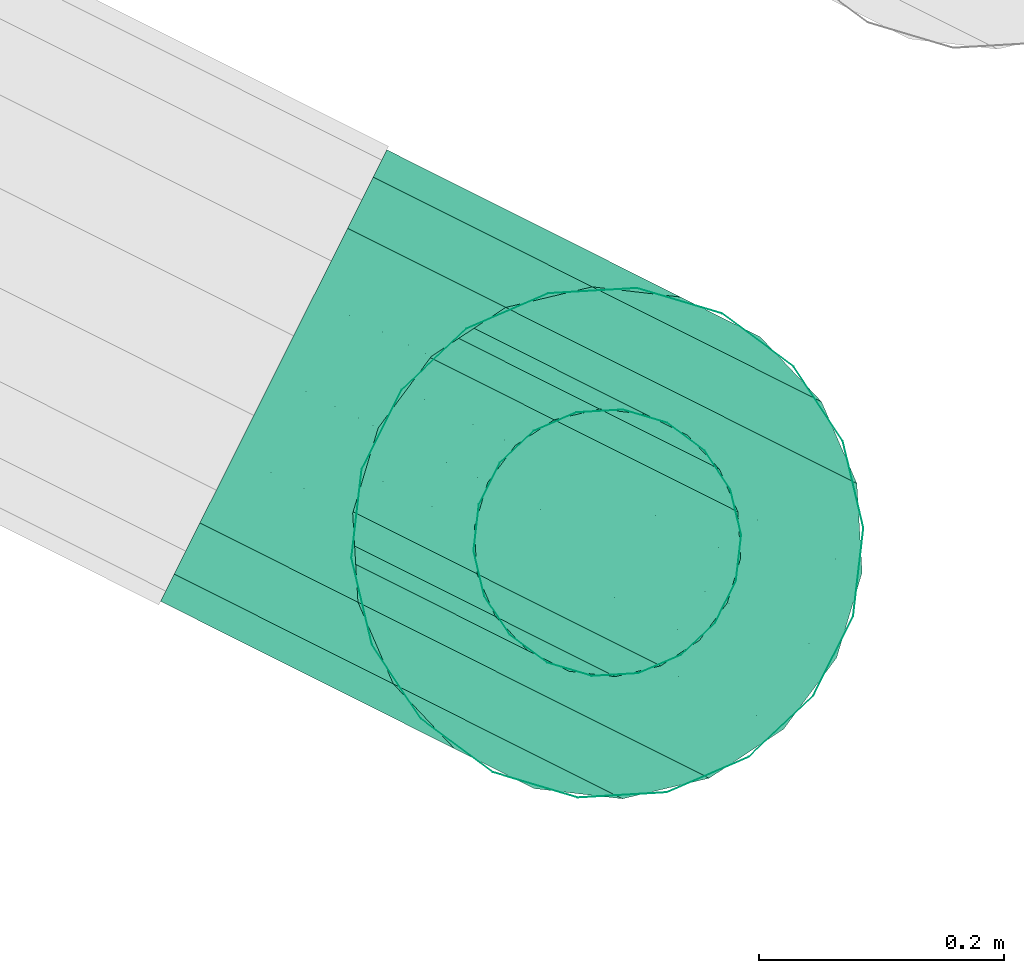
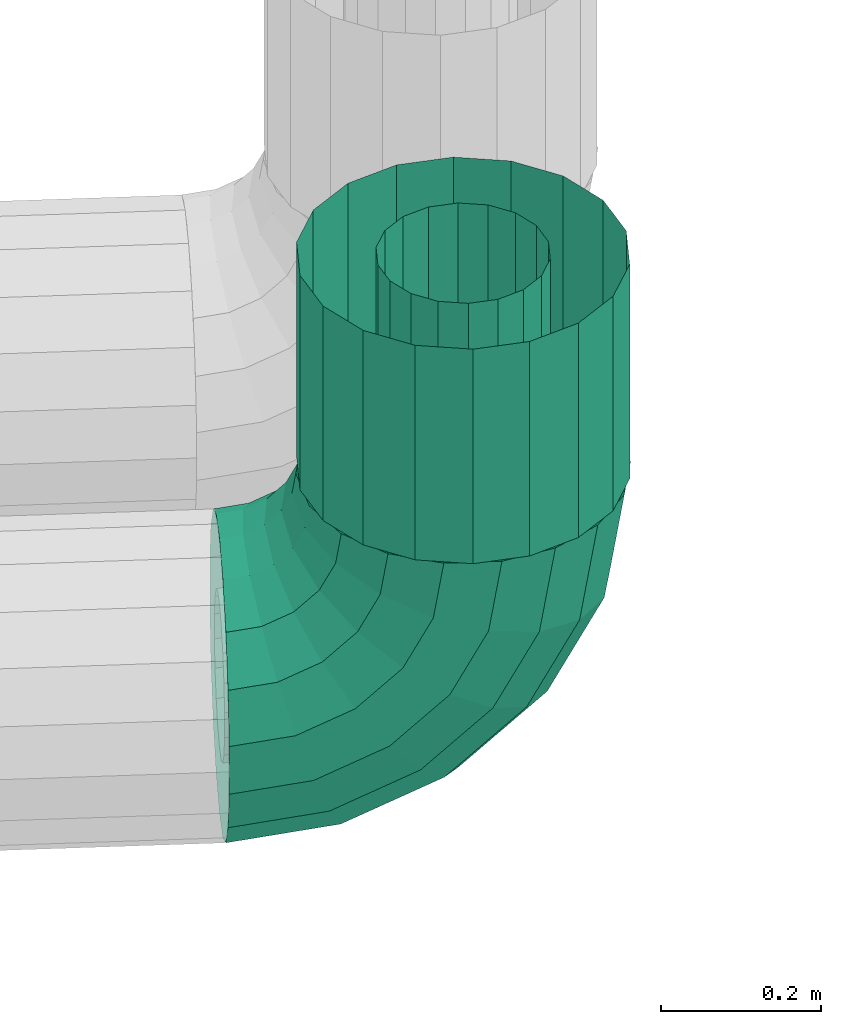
# One storey, part 168 of 206: 2 flow segments.
"""IFC2X3 building model written with IfcOpenShell, lengths in metres."""

from ifc_helpers import new_model, si_unit, derived_unit, direction, frame, origin, place, context, subcontext, project, spatial, face_set, surface_model, source, transform, mapped, material, type_object, type_shapes, element, save


model = new_model("IFC2X3")

# Units and contexts
model_context = context("Model", 3, precision=5.2338327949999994e-05, world=origin(), true_north=direction((0.0, 1.0)))
body_context = subcontext(model_context, "Body", "Model", "MODEL_VIEW")
ifc_project = project(units=[si_unit("LENGTHUNIT", "METRE"), si_unit("AREAUNIT", "SQUARE_METRE"), si_unit("VOLUMEUNIT", "CUBIC_METRE"), si_unit("MASSUNIT", "GRAM", prefix="KILO"), si_unit("PLANEANGLEUNIT", "RADIAN"), derived_unit("THERMALTRANSMITTANCEUNIT", [(si_unit("MASSUNIT", "GRAM", prefix="KILO"), 1), (si_unit("THERMODYNAMICTEMPERATUREUNIT", "KELVIN"), -1), (si_unit("TIMEUNIT", "SECOND"), -3)])], contexts=[model_context])

# Site, building, storey
site_placement = place(None, frame((0.0, 0.0, 0.0), z_axis=(0.0, 0.0, 1.0), x_axis=(0.8939966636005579, -0.4480736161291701, 0.0)))
site = spatial("IfcSite", under=ifc_project, at=site_placement, Name="Default", CompositionType="ELEMENT")
building_placement = place(site_placement, origin())
building = spatial("IfcBuilding", under=site, at=building_placement, CompositionType="ELEMENT")
storey_placement = place(building_placement, origin())
storey = spatial("IfcBuildingStorey", under=building, at=storey_placement, Name="Erdgeschoss", CompositionType="ELEMENT", Elevation=0.0)

# Flow segments
ifc_material = material(Name="IfcSurfaceStyle #9317")
distribution_element_type_1 = type_object("IfcDistributionElementType", Name="Rohrbogen 304005:Rohrbogen 304005", material=ifc_material)
shared_shape_1 = source(origin(), body_context, "Body", "SurfaceModel", [
    surface_model("IfcFaceBasedSurfaceModel", [(6.282814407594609, 7.327208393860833, 2.208248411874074), (6.28281440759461, 7.3646767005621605, 2.2148550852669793), (6.408875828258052, 7.3646767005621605, 2.2348212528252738), (6.410917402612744, 7.327208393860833, 2.228537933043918), (6.52259747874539, 7.3646767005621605, 2.292765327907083), (6.5264807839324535, 7.327208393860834, 2.287420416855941), (6.612847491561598, 7.364676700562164, 2.3830153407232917), (6.618192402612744, 7.327208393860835, 2.3791320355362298), (6.670791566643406, 7.364676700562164, 2.4967369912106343), (6.6770748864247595, 7.327208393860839, 2.494695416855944), (6.690757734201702, 7.364676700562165, 2.622798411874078), (6.6973644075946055, 7.327208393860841, 2.6227984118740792), (6.28281440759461, 7.397625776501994, 2.233878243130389), (6.40299734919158, 7.397625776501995, 2.2529133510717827), (6.511415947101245, 7.397625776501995, 2.3081553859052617), (6.597457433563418, 7.397625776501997, 2.3941968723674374), (6.652699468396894, 7.397625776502, 2.5026154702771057), (6.671734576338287, 7.397625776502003, 2.6227984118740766), (6.28281440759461, 7.422081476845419, 2.263023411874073), (6.393990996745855, 7.42208147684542, 2.2806320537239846), (6.4942848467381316, 7.42208147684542, 2.331734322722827), (6.573878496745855, 7.422081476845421, 2.4113279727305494), (6.624980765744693, 7.422081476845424, 2.5116218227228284), (6.642589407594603, 7.422081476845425, 2.6227984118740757), (6.282814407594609, 7.435094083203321, 2.2987752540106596), (6.382943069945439, 7.435094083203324, 2.314634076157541), (6.473270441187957, 7.435094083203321, 2.3606581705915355), (6.544954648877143, 7.435094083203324, 2.432342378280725), (6.590978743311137, 7.435094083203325, 2.5226697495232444), (6.606837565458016, 7.435094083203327, 2.6227984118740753), (6.282814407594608, 7.435094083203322, 2.3368215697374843), (6.371186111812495, 7.435094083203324, 2.3508182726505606), (6.450907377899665, 7.435094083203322, 2.391438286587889), (6.514174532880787, 7.4350940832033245, 2.4547054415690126), (6.554794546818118, 7.435094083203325, 2.5344267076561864), (6.568791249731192, 7.435094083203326, 2.6227984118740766), (6.282814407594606, 7.42208147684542, 2.3725734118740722), (6.360138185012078, 7.42208147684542, 2.3848202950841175), (6.42989297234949, 7.422081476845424, 2.4203621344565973), (6.485250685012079, 7.422081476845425, 2.475719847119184), (6.520792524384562, 7.422081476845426, 2.545474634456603), (6.533039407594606, 7.422081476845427, 2.6227984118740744), (6.282814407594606, 7.3976257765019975, 2.401718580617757), (6.351131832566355, 7.397625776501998, 2.4125389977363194), (6.412761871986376, 7.397625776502, 2.4439410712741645), (6.461671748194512, 7.397625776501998, 2.4928509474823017), (6.493073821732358, 7.397625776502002, 2.554480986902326), (6.503894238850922, 7.397625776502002, 2.622798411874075), (6.282814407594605, 7.364676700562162, 2.4207417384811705), (6.345253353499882, 7.364676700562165, 2.4306310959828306), (6.401580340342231, 7.364676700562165, 2.459331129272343), (6.446281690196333, 7.364676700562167, 2.5040324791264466), (6.474981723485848, 7.364676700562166, 2.560359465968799), (6.48487108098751, 7.364676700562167, 2.622798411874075), (6.282814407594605, 7.327208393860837, 2.4273484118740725), (6.343211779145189, 7.327208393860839, 2.4369144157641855), (6.39769703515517, 7.327208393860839, 2.4646760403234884), (6.44093677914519, 7.327208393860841, 2.5079157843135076), (6.468698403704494, 7.327208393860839, 2.562401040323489), (6.4782644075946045, 7.32720839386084, 2.6227984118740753), (6.282814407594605, 7.289740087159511, 2.4207417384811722), (6.345253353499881, 7.289740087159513, 2.4306310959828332), (6.401580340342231, 7.289740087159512, 2.4593311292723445), (6.446281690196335, 7.289740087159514, 2.5040324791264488), (6.474981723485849, 7.289740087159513, 2.5603594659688), (6.484871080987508, 7.289740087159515, 2.6227984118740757), (6.282814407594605, 7.2567910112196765, 2.401718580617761), (6.351131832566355, 7.256791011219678, 2.412538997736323), (6.412761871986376, 7.256791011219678, 2.4439410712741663), (6.461671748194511, 7.256791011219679, 2.4928509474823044), (6.493073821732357, 7.256791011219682, 2.554480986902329), (6.503894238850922, 7.25679101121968, 2.6227984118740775), (6.282814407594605, 7.232335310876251, 2.372573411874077), (6.360138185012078, 7.23233531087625, 2.384820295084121), (6.4298929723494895, 7.232335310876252, 2.4203621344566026), (6.485250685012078, 7.232335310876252, 2.47571984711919), (6.520792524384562, 7.232335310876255, 2.545474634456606), (6.533039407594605, 7.232335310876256, 2.622798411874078), (6.282814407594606, 7.219322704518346, 2.33682156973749), (6.371186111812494, 7.2193227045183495, 2.3508182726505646), (6.450907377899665, 7.21932270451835, 2.391438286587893), (6.514174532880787, 7.219322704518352, 2.454705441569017), (6.554794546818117, 7.219322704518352, 2.534426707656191), (6.568791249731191, 7.219322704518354, 2.6227984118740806), (6.282814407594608, 7.219322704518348, 2.2987752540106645), (6.382943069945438, 7.219322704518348, 2.3146340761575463), (6.473270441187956, 7.219322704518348, 2.3606581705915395), (6.544954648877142, 7.21932270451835, 2.4323423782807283), (6.590978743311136, 7.21932270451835, 2.522669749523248), (6.606837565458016, 7.219322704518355, 2.62279841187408), (6.282814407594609, 7.232335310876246, 2.2630234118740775), (6.393990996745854, 7.232335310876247, 2.2806320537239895), (6.4942848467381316, 7.23233531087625, 2.3317343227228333), (6.573878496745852, 7.232335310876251, 2.4113279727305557), (6.624980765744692, 7.232335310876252, 2.5116218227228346), (6.642589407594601, 7.232335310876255, 2.6227984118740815), (6.282814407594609, 7.256791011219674, 2.233878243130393), (6.402997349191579, 7.256791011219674, 2.2529133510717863), (6.511415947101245, 7.256791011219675, 2.3081553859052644), (6.597457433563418, 7.256791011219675, 2.3941968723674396), (6.652699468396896, 7.256791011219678, 2.502615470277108), (6.6717345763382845, 7.25679101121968, 2.6227984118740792), (6.282814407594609, 7.289740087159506, 2.2148550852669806), (6.408875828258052, 7.289740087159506, 2.234821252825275), (6.522597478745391, 7.28974008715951, 2.292765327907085), (6.612847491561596, 7.289740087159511, 2.383015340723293), (6.670791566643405, 7.289740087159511, 2.496736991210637), (6.690757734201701, 7.289740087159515, 2.6227984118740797), (6.28281440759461, 7.327208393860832, 2.108248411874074), (6.28281440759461, 7.3988787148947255, 2.120885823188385), (6.437913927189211, 7.3988787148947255, 2.145451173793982), (6.44181910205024, 7.327208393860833, 2.1334322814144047), (6.577831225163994, 7.398878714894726, 2.21674259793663), (6.5852593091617, 7.327208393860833, 2.2065187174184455), (6.688870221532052, 7.398878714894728, 2.32778159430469), (6.699094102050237, 7.3272083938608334, 2.3203535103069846), (6.760161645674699, 7.398878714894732, 2.4676988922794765), (6.772180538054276, 7.327208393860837, 2.4637937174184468), (6.784726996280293, 7.398878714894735, 2.6227984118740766), (6.797364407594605, 7.327208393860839, 2.6227984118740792), (6.28281440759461, 7.461904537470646, 2.1572737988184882), (6.426669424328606, 7.461904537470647, 2.1800581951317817), (6.556442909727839, 7.461904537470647, 2.2461810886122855), (6.6594317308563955, 7.461904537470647, 2.3491699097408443), (6.725554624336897, 7.461904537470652, 2.4789433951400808), (6.748339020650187, 7.461904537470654, 2.6227984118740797), (6.28281440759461, 7.508684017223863, 2.213023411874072), (6.409441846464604, 7.508684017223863, 2.2330792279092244), (6.523674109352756, 7.5086840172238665, 2.291283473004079), (6.6143293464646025, 7.5086840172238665, 2.381938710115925), (6.6725335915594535, 7.508684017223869, 2.496170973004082), (6.692589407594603, 7.508684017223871, 2.6227984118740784), (6.28281440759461, 7.533574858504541, 2.281410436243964), (6.388309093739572, 7.533574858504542, 2.2981191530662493), (6.483477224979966, 7.533574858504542, 2.346609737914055), (6.559003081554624, 7.5335748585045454, 2.422135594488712), (6.607493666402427, 7.533574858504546, 2.5173037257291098), (6.624202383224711, 7.533574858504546, 2.6227984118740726), (6.282814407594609, 7.533574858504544, 2.354186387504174), (6.365820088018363, 7.533574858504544, 2.3673331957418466), (6.440700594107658, 7.533574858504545, 2.4054867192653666), (6.5001261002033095, 7.533574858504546, 2.4649122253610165), (6.538279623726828, 7.5335748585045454, 2.539792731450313), (6.551426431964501, 7.53357485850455, 2.622798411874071), (6.282814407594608, 7.5086840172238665, 2.4225734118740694), (6.344687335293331, 7.508684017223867, 2.432373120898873), (6.400503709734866, 7.508684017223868, 2.4608129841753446), (6.44479983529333, 7.508684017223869, 2.505109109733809), (6.4732396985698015, 7.508684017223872, 2.5609254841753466), (6.483039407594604, 7.508684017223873, 2.622798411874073), (6.282814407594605, 7.4619045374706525, 2.4783230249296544), (6.3274597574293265, 7.4619045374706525, 2.48539415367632), (6.367734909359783, 7.461904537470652, 2.5059153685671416), (6.3996974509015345, 7.461904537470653, 2.537877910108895), (6.420218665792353, 7.461904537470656, 2.578153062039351), (6.4272897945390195, 7.461904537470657, 2.6227984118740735), (6.282814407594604, 7.398878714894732, 2.5147110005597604), (6.316215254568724, 7.398878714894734, 2.5200011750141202), (6.346346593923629, 7.398878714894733, 2.535353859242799), (6.370258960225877, 7.398878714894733, 2.5592662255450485), (6.385611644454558, 7.398878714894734, 2.5893975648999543), (6.390901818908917, 7.398878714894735, 2.6227984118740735), (6.282814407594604, 7.327208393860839, 2.527348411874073), (6.312310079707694, 7.32720839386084, 2.5320200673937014), (6.338918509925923, 7.327208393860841, 2.545577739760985), (6.360035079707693, 7.32720839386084, 2.566694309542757), (6.373592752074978, 7.327208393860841, 2.5933027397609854), (6.378264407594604, 7.32720839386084, 2.6227984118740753), (6.282814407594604, 7.255538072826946, 2.514711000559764), (6.316215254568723, 7.255538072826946, 2.5200011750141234), (6.346346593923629, 7.255538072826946, 2.535353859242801), (6.370258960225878, 7.255538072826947, 2.5592662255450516), (6.385611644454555, 7.255538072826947, 2.5893975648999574), (6.390901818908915, 7.255538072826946, 2.6227984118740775), (6.282814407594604, 7.192512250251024, 2.47832302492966), (6.327459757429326, 7.192512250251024, 2.4853941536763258), (6.367734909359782, 7.192512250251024, 2.505915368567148), (6.399697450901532, 7.192512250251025, 2.5378779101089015), (6.420218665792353, 7.192512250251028, 2.5781530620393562), (6.4272897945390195, 7.192512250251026, 2.6227984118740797), (6.282814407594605, 7.145732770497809, 2.4225734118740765), (6.3446873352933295, 7.145732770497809, 2.4323731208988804), (6.400503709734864, 7.145732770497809, 2.460812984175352), (6.444799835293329, 7.145732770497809, 2.5051091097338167), (6.4732396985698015, 7.14573277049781, 2.560925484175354), (6.483039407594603, 7.14573277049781, 2.6227984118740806), (6.282814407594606, 7.120841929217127, 2.3541863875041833), (6.365820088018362, 7.120841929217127, 2.367333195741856), (6.440700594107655, 7.120841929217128, 2.4054867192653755), (6.500126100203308, 7.120841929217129, 2.464912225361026), (6.538279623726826, 7.12084192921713, 2.5397927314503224), (6.5514264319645, 7.120841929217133, 2.62279841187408), (6.282814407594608, 7.120841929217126, 2.281410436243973), (6.3883090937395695, 7.120841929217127, 2.2981191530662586), (6.483477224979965, 7.120841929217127, 2.346609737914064), (6.559003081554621, 7.12084192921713, 2.4221355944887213), (6.607493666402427, 7.120841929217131, 2.517303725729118), (6.624202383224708, 7.120841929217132, 2.622798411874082), (6.282814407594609, 7.145732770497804, 2.2130234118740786), (6.4094418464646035, 7.145732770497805, 2.233079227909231), (6.523674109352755, 7.145732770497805, 2.2912834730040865), (6.614329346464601, 7.145732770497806, 2.3819387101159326), (6.672533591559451, 7.145732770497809, 2.4961709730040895), (6.692589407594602, 7.14573277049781, 2.622798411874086), (6.28281440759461, 7.192512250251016, 2.1572737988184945), (6.4266694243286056, 7.192512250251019, 2.180058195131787), (6.5564429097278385, 7.19251225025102, 2.246181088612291), (6.659431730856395, 7.19251225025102, 2.349169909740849), (6.725554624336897, 7.192512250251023, 2.478943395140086), (6.748339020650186, 7.192512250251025, 2.6227984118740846), (6.28281440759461, 7.255538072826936, 2.1208858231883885), (6.437913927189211, 7.255538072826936, 2.1454511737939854), (6.577831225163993, 7.255538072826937, 2.2167425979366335), (6.688870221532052, 7.2555380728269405, 2.3277815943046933), (6.760161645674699, 7.255538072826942, 2.467698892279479), (6.784726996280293, 7.255538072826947, 2.62279841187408)], [face_set([[[0, 1, 2, 3]], [[3, 2, 4, 5]], [[5, 4, 6, 7]], [[7, 6, 8, 9]], [[9, 8, 10, 11]], [[1, 12, 13, 2]], [[2, 13, 14, 4]], [[4, 14, 15, 6]], [[6, 15, 16, 8]], [[8, 16, 17, 10]], [[12, 18, 19, 13]], [[13, 19, 20, 14]], [[14, 20, 21, 15]], [[15, 21, 22, 16]], [[16, 22, 23, 17]], [[18, 24, 25, 19]], [[19, 25, 26, 20]], [[20, 26, 27, 21]], [[21, 27, 28, 22]], [[22, 28, 29, 23]], [[24, 30, 31, 25]], [[25, 31, 32, 26]], [[26, 32, 33, 27]], [[27, 33, 34, 28]], [[28, 34, 35, 29]], [[30, 36, 37, 31]], [[31, 37, 38, 32]], [[32, 38, 39, 33]], [[33, 39, 40, 34]], [[34, 40, 41, 35]], [[36, 42, 43, 37]], [[37, 43, 44, 38]], [[38, 44, 45, 39]], [[39, 45, 46, 40]], [[40, 46, 47, 41]], [[42, 48, 49, 43]], [[43, 49, 50, 44]], [[44, 50, 51, 45]], [[45, 51, 52, 46]], [[46, 52, 53, 47]], [[48, 54, 55, 49]], [[49, 55, 56, 50]], [[50, 56, 57, 51]], [[51, 57, 58, 52]], [[52, 58, 59, 53]], [[54, 60, 61, 55]], [[55, 61, 62, 56]], [[56, 62, 63, 57]], [[57, 63, 64, 58]], [[58, 64, 65, 59]], [[60, 66, 67, 61]], [[61, 67, 68, 62]], [[62, 68, 69, 63]], [[63, 69, 70, 64]], [[64, 70, 71, 65]], [[66, 72, 73, 67]], [[67, 73, 74, 68]], [[68, 74, 75, 69]], [[69, 75, 76, 70]], [[70, 76, 77, 71]], [[72, 78, 79, 73]], [[73, 79, 80, 74]], [[74, 80, 81, 75]], [[75, 81, 82, 76]], [[76, 82, 83, 77]], [[78, 84, 85, 79]], [[79, 85, 86, 80]], [[80, 86, 87, 81]], [[81, 87, 88, 82]], [[82, 88, 89, 83]], [[84, 90, 91, 85]], [[85, 91, 92, 86]], [[86, 92, 93, 87]], [[87, 93, 94, 88]], [[88, 94, 95, 89]], [[90, 96, 97, 91]], [[91, 97, 98, 92]], [[92, 98, 99, 93]], [[93, 99, 100, 94]], [[94, 100, 101, 95]], [[96, 102, 103, 97]], [[97, 103, 104, 98]], [[98, 104, 105, 99]], [[99, 105, 106, 100]], [[100, 106, 107, 101]], [[102, 0, 3, 103]], [[103, 3, 5, 104]], [[104, 5, 7, 105]], [[105, 7, 9, 106]], [[106, 9, 11, 107]], [[108, 109, 110, 111]], [[111, 110, 112, 113]], [[113, 112, 114, 115]], [[115, 114, 116, 117]], [[117, 116, 118, 119]], [[109, 120, 121, 110]], [[110, 121, 122, 112]], [[112, 122, 123, 114]], [[114, 123, 124, 116]], [[116, 124, 125, 118]], [[120, 126, 127, 121]], [[121, 127, 128, 122]], [[122, 128, 129, 123]], [[123, 129, 130, 124]], [[124, 130, 131, 125]], [[126, 132, 133, 127]], [[127, 133, 134, 128]], [[128, 134, 135, 129]], [[129, 135, 136, 130]], [[130, 136, 137, 131]], [[132, 138, 139, 133]], [[133, 139, 140, 134]], [[134, 140, 141, 135]], [[135, 141, 142, 136]], [[136, 142, 143, 137]], [[138, 144, 145, 139]], [[139, 145, 146, 140]], [[140, 146, 147, 141]], [[141, 147, 148, 142]], [[142, 148, 149, 143]], [[144, 150, 151, 145]], [[145, 151, 152, 146]], [[146, 152, 153, 147]], [[147, 153, 154, 148]], [[148, 154, 155, 149]], [[150, 156, 157, 151]], [[151, 157, 158, 152]], [[152, 158, 159, 153]], [[153, 159, 160, 154]], [[154, 160, 161, 155]], [[156, 162, 163, 157]], [[157, 163, 164, 158]], [[158, 164, 165, 159]], [[159, 165, 166, 160]], [[160, 166, 167, 161]], [[162, 168, 169, 163]], [[163, 169, 170, 164]], [[164, 170, 171, 165]], [[165, 171, 172, 166]], [[166, 172, 173, 167]], [[168, 174, 175, 169]], [[169, 175, 176, 170]], [[170, 176, 177, 171]], [[171, 177, 178, 172]], [[172, 178, 179, 173]], [[174, 180, 181, 175]], [[175, 181, 182, 176]], [[176, 182, 183, 177]], [[177, 183, 184, 178]], [[178, 184, 185, 179]], [[180, 186, 187, 181]], [[181, 187, 188, 182]], [[182, 188, 189, 183]], [[183, 189, 190, 184]], [[184, 190, 191, 185]], [[186, 192, 193, 187]], [[187, 193, 194, 188]], [[188, 194, 195, 189]], [[189, 195, 196, 190]], [[190, 196, 197, 191]], [[192, 198, 199, 193]], [[193, 199, 200, 194]], [[194, 200, 201, 195]], [[195, 201, 202, 196]], [[196, 202, 203, 197]], [[198, 204, 205, 199]], [[199, 205, 206, 200]], [[200, 206, 207, 201]], [[201, 207, 208, 202]], [[202, 208, 209, 203]], [[204, 210, 211, 205]], [[205, 211, 212, 206]], [[206, 212, 213, 207]], [[207, 213, 214, 208]], [[208, 214, 215, 209]], [[210, 108, 111, 211]], [[211, 111, 113, 212]], [[212, 113, 115, 213]], [[213, 115, 117, 214]], [[214, 117, 119, 215]]])]),
])
type_shapes(distribution_element_type_1, [shared_shape_1])
flow_segment_1_placement = place(storey_placement, origin())
element("IfcFlowSegment", 1, at=flow_segment_1_placement, inside=storey, type_object=distribution_element_type_1, material=ifc_material, Name="Rohrbogen", ObjectType="Rohrbogen", context=body_context, shape_type="MappedRepresentation", body=[
    mapped(shared_shape_1, transform((0.0, 0.0, 0.0), scale=1.0)),
])
distribution_element_type_2 = type_object("IfcDistributionElementType", Name="Stahlrohr nach DIN 2448 304309:Stahlrohr nach DIN 2448 304309", material=ifc_material)
shared_shape_2 = source(origin(), body_context, "Body", "SurfaceModel", [
    surface_model("IfcFaceBasedSurfaceModel", [(6.587814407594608, 7.217658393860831, 2.6227984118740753), (6.625282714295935, 7.224265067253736, 2.6227984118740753), (6.625282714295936, 7.224265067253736, 2.95), (6.5878144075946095, 7.217658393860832, 2.95), (6.658231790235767, 7.243288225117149, 2.6227984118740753), (6.658231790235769, 7.2432882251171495, 2.95), (6.682687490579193, 7.272433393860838, 2.6227984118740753), (6.682687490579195, 7.272433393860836, 2.95), (6.695700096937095, 7.308185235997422, 2.6227984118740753), (6.695700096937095, 7.308185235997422, 2.95), (6.6957000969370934, 7.346231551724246, 2.6227984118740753), (6.695700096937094, 7.34623155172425, 2.95), (6.682687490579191, 7.381983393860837, 2.6227984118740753), (6.682687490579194, 7.381983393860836, 2.95), (6.658231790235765, 7.411128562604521, 2.6227984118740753), (6.658231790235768, 7.411128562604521, 2.95), (6.625282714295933, 7.4301517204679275, 2.6227984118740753), (6.625282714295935, 7.43015172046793, 2.95), (6.587814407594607, 7.436758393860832, 2.6227984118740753), (6.587814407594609, 7.436758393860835, 2.95), (6.55034610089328, 7.430151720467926, 2.6227984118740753), (6.5503461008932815, 7.430151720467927, 2.95), (6.517397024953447, 7.411128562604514, 2.6227984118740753), (6.517397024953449, 7.411128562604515, 2.95), (6.492941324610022, 7.381983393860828, 2.6227984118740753), (6.492941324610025, 7.3819833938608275, 2.95), (6.479928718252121, 7.3462315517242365, 2.6227984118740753), (6.479928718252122, 7.34623155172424, 2.95), (6.479928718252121, 7.308185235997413, 2.6227984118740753), (6.479928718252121, 7.308185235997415, 2.95), (6.4929413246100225, 7.272433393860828, 2.6227984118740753), (6.492941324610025, 7.272433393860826, 2.95), (6.517397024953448, 7.243288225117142, 2.6227984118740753), (6.517397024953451, 7.243288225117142, 2.95), (6.550346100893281, 7.224265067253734, 2.6227984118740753), (6.550346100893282, 7.224265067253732, 2.95), (6.587814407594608, 7.117658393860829, 2.6227984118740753), (6.659484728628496, 7.130295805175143, 2.6227984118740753), (6.659484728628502, 7.130295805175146, 2.95), (6.5878144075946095, 7.117658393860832, 2.95), (6.7225105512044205, 7.166683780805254, 2.6227984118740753), (6.722510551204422, 7.166683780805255, 2.95), (6.769290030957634, 7.222433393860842, 2.6227984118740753), (6.769290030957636, 7.222433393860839, 2.95), (6.7941808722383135, 7.290820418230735, 2.6227984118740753), (6.794180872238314, 7.2908204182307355, 2.95), (6.7941808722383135, 7.363596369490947, 2.6227984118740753), (6.794180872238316, 7.363596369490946, 2.95), (6.769290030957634, 7.43198339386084, 2.6227984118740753), (6.769290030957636, 7.43198339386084, 2.95), (6.7225105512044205, 7.487733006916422, 2.6227984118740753), (6.722510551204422, 7.487733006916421, 2.95), (6.659484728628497, 7.524120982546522, 2.6227984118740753), (6.6594847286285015, 7.524120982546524, 2.95), (6.587814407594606, 7.53675839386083, 2.6227984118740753), (6.5878144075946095, 7.5367583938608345, 2.95), (6.516144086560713, 7.524120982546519, 2.6227984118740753), (6.516144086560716, 7.524120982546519, 2.95), (6.453118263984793, 7.487733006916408, 2.6227984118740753), (6.453118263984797, 7.487733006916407, 2.95), (6.406338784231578, 7.431983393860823, 2.6227984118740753), (6.4063387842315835, 7.431983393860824, 2.95), (6.381447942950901, 7.363596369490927, 2.6227984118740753), (6.381447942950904, 7.363596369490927, 2.95), (6.3814479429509, 7.290820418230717, 2.6227984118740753), (6.381447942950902, 7.290820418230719, 2.95), (6.406338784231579, 7.222433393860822, 2.6227984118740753), (6.406338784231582, 7.222433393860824, 2.95), (6.453118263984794, 7.166683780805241, 2.6227984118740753), (6.453118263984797, 7.1666837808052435, 2.95), (6.516144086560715, 7.13029580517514, 2.6227984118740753), (6.516144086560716, 7.130295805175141, 2.95)], [face_set([[[0, 1, 2, 3]], [[1, 4, 5, 2]], [[4, 6, 7, 5]], [[6, 8, 9, 7]], [[8, 10, 11, 9]], [[10, 12, 13, 11]], [[12, 14, 15, 13]], [[14, 16, 17, 15]], [[16, 18, 19, 17]], [[18, 20, 21, 19]], [[20, 22, 23, 21]], [[22, 24, 25, 23]], [[24, 26, 27, 25]], [[26, 28, 29, 27]], [[28, 30, 31, 29]], [[30, 32, 33, 31]], [[32, 34, 35, 33]], [[34, 0, 3, 35]], [[36, 37, 38, 39]], [[37, 40, 41, 38]], [[40, 42, 43, 41]], [[42, 44, 45, 43]], [[44, 46, 47, 45]], [[46, 48, 49, 47]], [[48, 50, 51, 49]], [[50, 52, 53, 51]], [[52, 54, 55, 53]], [[54, 56, 57, 55]], [[56, 58, 59, 57]], [[58, 60, 61, 59]], [[60, 62, 63, 61]], [[62, 64, 65, 63]], [[64, 66, 67, 65]], [[66, 68, 69, 67]], [[68, 70, 71, 69]], [[70, 36, 39, 71]]])]),
])
type_shapes(distribution_element_type_2, [shared_shape_2])
flow_segment_2_placement = place(storey_placement, origin())
element("IfcFlowSegment", 2, at=flow_segment_2_placement, inside=storey, type_object=distribution_element_type_2, material=ifc_material, Name="Stahlrohr nach DIN 2448", ObjectType="Stahlrohr nach DIN 2448", context=body_context, shape_type="MappedRepresentation", body=[
    mapped(shared_shape_2, transform((0.0, 0.0, 0.0), scale=1.0)),
])

save(model, "model.ifc")
